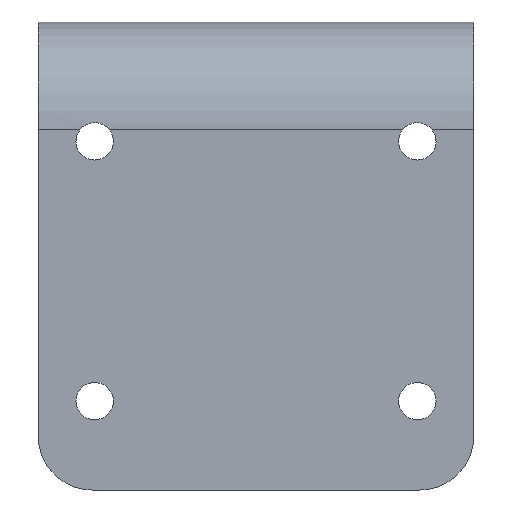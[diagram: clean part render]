
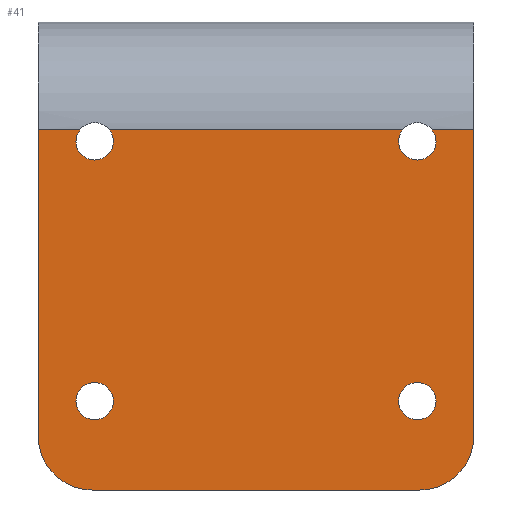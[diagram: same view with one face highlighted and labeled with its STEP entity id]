
A CAD part, front view. The second image highlights one B-rep face of the part: STEP entity #41.
In plain terms, the highlighted planar face has unit normal (0, -1, 0).
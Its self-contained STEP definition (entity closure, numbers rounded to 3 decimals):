
#6 = CARTESIAN_POINT ( 'NONE',  ( -41.911, 0., 39.723 ) ) ;
#10 = CIRCLE ( 'NONE', #309, 1.73 ) ;
#20 = CARTESIAN_POINT ( 'NONE',  ( -40.544, 0., 40.783 ) ) ;
#22 = EDGE_CURVE ( 'NONE', #170, #877, #818, .T. ) ;
#33 = VECTOR ( 'NONE', #1039, 1000. ) ;
#41 = ADVANCED_FACE ( 'NONE', ( #326, #763, #1217 ), #1207, .F. ) ;
#50 = ORIENTED_EDGE ( 'NONE', *, *, #853, .F. ) ;
#74 = DIRECTION ( 'NONE',  ( 0., 0., -1. ) ) ;
#76 = DIRECTION ( 'NONE',  ( 0., 0., 1. ) ) ;
#78 = ORIENTED_EDGE ( 'NONE', *, *, #774, .F. ) ;
#82 = DIRECTION ( 'NONE',  ( 0., 0., 1. ) ) ;
#108 = CIRCLE ( 'NONE', #580, 5. ) ;
#115 = CIRCLE ( 'NONE', #610, 1.73 ) ;
#122 = DIRECTION ( 'NONE',  ( 0., 0., 1. ) ) ;
#124 = EDGE_CURVE ( 'NONE', #1453, #255, #750, .T. ) ;
#126 = CARTESIAN_POINT ( 'NONE',  ( -42.141, 0., 12.433 ) ) ;
#127 = DIRECTION ( 'NONE',  ( 0., 0., 1. ) ) ;
#142 = DIRECTION ( 'NONE',  ( 0., 0., 1. ) ) ;
#143 = EDGE_CURVE ( 'NONE', #677, #940, #115, .T. ) ;
#170 = VERTEX_POINT ( 'NONE', #783 ) ;
#199 = CARTESIAN_POINT ( 'NONE',  ( -6.791, 0., 12.433 ) ) ;
#208 = CARTESIAN_POINT ( 'NONE',  ( 0., 0., 0. ) ) ;
#217 = DIRECTION ( 'NONE',  ( 0., 1., 0. ) ) ;
#220 = DIRECTION ( 'NONE',  ( -1., 0., 0. ) ) ;
#241 = VECTOR ( 'NONE', #74, 1000. ) ;
#246 = CARTESIAN_POINT ( 'NONE',  ( 0., 0., 40.783 ) ) ;
#255 = VERTEX_POINT ( 'NONE', #800 ) ;
#260 = AXIS2_PLACEMENT_3D ( 'NONE', #557, #456, #1344 ) ;
#279 = DIRECTION ( 'NONE',  ( 0., 0., 1. ) ) ;
#291 = ORIENTED_EDGE ( 'NONE', *, *, #978, .F. ) ;
#304 = EDGE_LOOP ( 'NONE', ( #860, #826, #563, #1035, #892, #1133, #344, #1265, #798, #587, #1109, #658 ) ) ;
#309 = AXIS2_PLACEMENT_3D ( 'NONE', #820, #1177, #279 ) ;
#326 = FACE_OUTER_BOUND ( 'NONE', #304, .T. ) ;
#330 = CARTESIAN_POINT ( 'NONE',  ( -41.911, 0., 39.723 ) ) ;
#343 = VERTEX_POINT ( 'NONE', #948 ) ;
#344 = ORIENTED_EDGE ( 'NONE', *, *, #410, .F. ) ;
#407 = CARTESIAN_POINT ( 'NONE',  ( -12.021, 0., 37.993 ) ) ;
#409 = ORIENTED_EDGE ( 'NONE', *, *, #535, .F. ) ;
#410 = EDGE_CURVE ( 'NONE', #743, #1348, #419, .T. ) ;
#413 = LINE ( 'NONE', #1302, #1362 ) ;
#415 = CARTESIAN_POINT ( 'NONE',  ( -12.021, 0., 15.663 ) ) ;
#419 = LINE ( 'NONE', #862, #241 ) ;
#423 = VERTEX_POINT ( 'NONE', #972 ) ;
#437 = EDGE_CURVE ( 'NONE', #743, #940, #413, .T. ) ;
#440 = VERTEX_POINT ( 'NONE', #1081 ) ;
#448 = DIRECTION ( 'NONE',  ( 0., -1., 0. ) ) ;
#449 = CIRCLE ( 'NONE', #1355, 1.73 ) ;
#456 = DIRECTION ( 'NONE',  ( 0., -1., 0. ) ) ;
#469 = LINE ( 'NONE', #246, #770 ) ;
#475 = VECTOR ( 'NONE', #1129, 1000. ) ;
#481 = CARTESIAN_POINT ( 'NONE',  ( -11.791, 0., 12.433 ) ) ;
#493 = EDGE_CURVE ( 'NONE', #1037, #255, #1454, .T. ) ;
#511 = CARTESIAN_POINT ( 'NONE',  ( -10.654, 0., 40.783 ) ) ;
#535 = EDGE_CURVE ( 'NONE', #1233, #440, #984, .T. ) ;
#557 = CARTESIAN_POINT ( 'NONE',  ( -41.911, 0., 15.663 ) ) ;
#563 = ORIENTED_EDGE ( 'NONE', *, *, #1376, .F. ) ;
#565 = CARTESIAN_POINT ( 'NONE',  ( -47.141, 0., 7.433 ) ) ;
#580 = AXIS2_PLACEMENT_3D ( 'NONE', #481, #1152, #142 ) ;
#587 = ORIENTED_EDGE ( 'NONE', *, *, #675, .F. ) ;
#610 = AXIS2_PLACEMENT_3D ( 'NONE', #1213, #448, #1346 ) ;
#611 = CARTESIAN_POINT ( 'NONE',  ( -6.791, 0., 40.783 ) ) ;
#637 = DIRECTION ( 'NONE',  ( 0., -1., 0. ) ) ;
#653 = CARTESIAN_POINT ( 'NONE',  ( -11.791, 0., 7.433 ) ) ;
#658 = ORIENTED_EDGE ( 'NONE', *, *, #22, .F. ) ;
#667 = LINE ( 'NONE', #1104, #475 ) ;
#671 = VERTEX_POINT ( 'NONE', #1034 ) ;
#675 = EDGE_CURVE ( 'NONE', #741, #677, #10, .T. ) ;
#677 = VERTEX_POINT ( 'NONE', #407 ) ;
#735 = EDGE_LOOP ( 'NONE', ( #78, #291 ) ) ;
#739 = CARTESIAN_POINT ( 'NONE',  ( -12.021, 0., 15.663 ) ) ;
#741 = VERTEX_POINT ( 'NONE', #1163 ) ;
#743 = VERTEX_POINT ( 'NONE', #611 ) ;
#745 = DIRECTION ( 'NONE',  ( -1., 0., 0. ) ) ;
#749 = DIRECTION ( 'NONE',  ( 0., 0., 1. ) ) ;
#750 = CIRCLE ( 'NONE', #891, 5. ) ;
#763 = FACE_BOUND ( 'NONE', #735, .T. ) ;
#770 = VECTOR ( 'NONE', #1446, 1000. ) ;
#771 = DIRECTION ( 'NONE',  ( 0., -1., 0. ) ) ;
#774 = EDGE_CURVE ( 'NONE', #423, #905, #1094, .T. ) ;
#783 = CARTESIAN_POINT ( 'NONE',  ( -41.911, 0., 37.993 ) ) ;
#798 = ORIENTED_EDGE ( 'NONE', *, *, #143, .F. ) ;
#800 = CARTESIAN_POINT ( 'NONE',  ( -42.141, 0., 7.433 ) ) ;
#818 = CIRCLE ( 'NONE', #1459, 1.73 ) ;
#820 = CARTESIAN_POINT ( 'NONE',  ( -12.021, 0., 39.723 ) ) ;
#826 = ORIENTED_EDGE ( 'NONE', *, *, #1105, .T. ) ;
#838 = LINE ( 'NONE', #937, #33 ) ;
#840 = VECTOR ( 'NONE', #220, 1000. ) ;
#853 = EDGE_CURVE ( 'NONE', #440, #1233, #1358, .T. ) ;
#860 = ORIENTED_EDGE ( 'NONE', *, *, #1033, .F. ) ;
#862 = CARTESIAN_POINT ( 'NONE',  ( -6.791, 0., 7.433 ) ) ;
#877 = VERTEX_POINT ( 'NONE', #20 ) ;
#891 = AXIS2_PLACEMENT_3D ( 'NONE', #126, #1243, #895 ) ;
#892 = ORIENTED_EDGE ( 'NONE', *, *, #493, .F. ) ;
#895 = DIRECTION ( 'NONE',  ( 0., 0., 1. ) ) ;
#905 = VERTEX_POINT ( 'NONE', #1360 ) ;
#909 = AXIS2_PLACEMENT_3D ( 'NONE', #739, #637, #76 ) ;
#937 = CARTESIAN_POINT ( 'NONE',  ( 0., 0., 40.783 ) ) ;
#940 = VERTEX_POINT ( 'NONE', #511 ) ;
#948 = CARTESIAN_POINT ( 'NONE',  ( -47.141, 0., 40.783 ) ) ;
#961 = DIRECTION ( 'NONE',  ( 0., -1., 0. ) ) ;
#972 = CARTESIAN_POINT ( 'NONE',  ( -12.021, 0., 13.933 ) ) ;
#978 = EDGE_CURVE ( 'NONE', #905, #423, #1005, .T. ) ;
#979 = AXIS2_PLACEMENT_3D ( 'NONE', #1449, #1305, #749 ) ;
#984 = CIRCLE ( 'NONE', #260, 1.73 ) ;
#1005 = CIRCLE ( 'NONE', #909, 1.73 ) ;
#1010 = EDGE_LOOP ( 'NONE', ( #50, #409 ) ) ;
#1033 = EDGE_CURVE ( 'NONE', #671, #170, #449, .T. ) ;
#1034 = CARTESIAN_POINT ( 'NONE',  ( -43.278, 0., 40.783 ) ) ;
#1035 = ORIENTED_EDGE ( 'NONE', *, *, #124, .T. ) ;
#1037 = VERTEX_POINT ( 'NONE', #653 ) ;
#1039 = DIRECTION ( 'NONE',  ( -1., 0., 0. ) ) ;
#1052 = AXIS2_PLACEMENT_3D ( 'NONE', #208, #217, #127 ) ;
#1081 = CARTESIAN_POINT ( 'NONE',  ( -41.911, 0., 13.933 ) ) ;
#1089 = DIRECTION ( 'NONE',  ( 0., -1., 0. ) ) ;
#1094 = CIRCLE ( 'NONE', #1162, 1.73 ) ;
#1104 = CARTESIAN_POINT ( 'NONE',  ( -47.141, 0., 7.433 ) ) ;
#1105 = EDGE_CURVE ( 'NONE', #671, #343, #838, .T. ) ;
#1109 = ORIENTED_EDGE ( 'NONE', *, *, #1390, .T. ) ;
#1129 = DIRECTION ( 'NONE',  ( 0., 0., 1. ) ) ;
#1133 = ORIENTED_EDGE ( 'NONE', *, *, #1164, .T. ) ;
#1152 = DIRECTION ( 'NONE',  ( 0., -1., 0. ) ) ;
#1162 = AXIS2_PLACEMENT_3D ( 'NONE', #415, #961, #1416 ) ;
#1163 = CARTESIAN_POINT ( 'NONE',  ( -13.388, 0., 40.783 ) ) ;
#1164 = EDGE_CURVE ( 'NONE', #1037, #1348, #108, .T. ) ;
#1177 = DIRECTION ( 'NONE',  ( 0., -1., 0. ) ) ;
#1207 = PLANE ( 'NONE',  #1052 ) ;
#1212 = CARTESIAN_POINT ( 'NONE',  ( -41.911, 0., 17.393 ) ) ;
#1213 = CARTESIAN_POINT ( 'NONE',  ( -12.021, 0., 39.723 ) ) ;
#1217 = FACE_BOUND ( 'NONE', #1010, .T. ) ;
#1233 = VERTEX_POINT ( 'NONE', #1212 ) ;
#1243 = DIRECTION ( 'NONE',  ( 0., -1., 0. ) ) ;
#1265 = ORIENTED_EDGE ( 'NONE', *, *, #437, .T. ) ;
#1302 = CARTESIAN_POINT ( 'NONE',  ( 0., 0., 40.783 ) ) ;
#1305 = DIRECTION ( 'NONE',  ( 0., -1., 0. ) ) ;
#1344 = DIRECTION ( 'NONE',  ( 0., 0., 1. ) ) ;
#1345 = CARTESIAN_POINT ( 'NONE',  ( -47.141, 0., 12.433 ) ) ;
#1346 = DIRECTION ( 'NONE',  ( 0., 0., 1. ) ) ;
#1348 = VERTEX_POINT ( 'NONE', #199 ) ;
#1355 = AXIS2_PLACEMENT_3D ( 'NONE', #330, #1089, #82 ) ;
#1358 = CIRCLE ( 'NONE', #979, 1.73 ) ;
#1360 = CARTESIAN_POINT ( 'NONE',  ( -12.021, 0., 17.393 ) ) ;
#1362 = VECTOR ( 'NONE', #745, 1000. ) ;
#1376 = EDGE_CURVE ( 'NONE', #1453, #343, #667, .T. ) ;
#1390 = EDGE_CURVE ( 'NONE', #741, #877, #469, .T. ) ;
#1416 = DIRECTION ( 'NONE',  ( 0., 0., 1. ) ) ;
#1446 = DIRECTION ( 'NONE',  ( -1., 0., 0. ) ) ;
#1449 = CARTESIAN_POINT ( 'NONE',  ( -41.911, 0., 15.663 ) ) ;
#1453 = VERTEX_POINT ( 'NONE', #1345 ) ;
#1454 = LINE ( 'NONE', #565, #840 ) ;
#1459 = AXIS2_PLACEMENT_3D ( 'NONE', #6, #771, #122 ) ;
